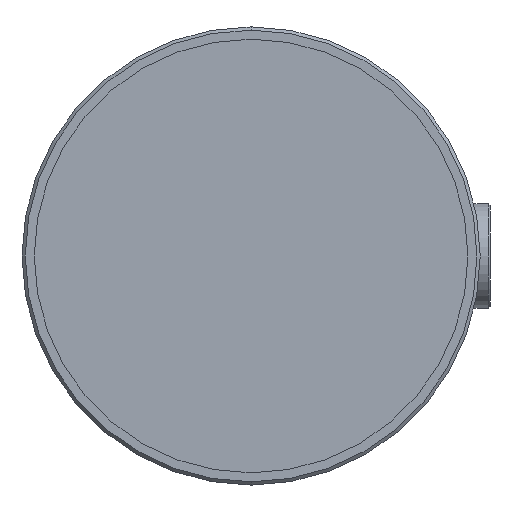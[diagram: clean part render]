
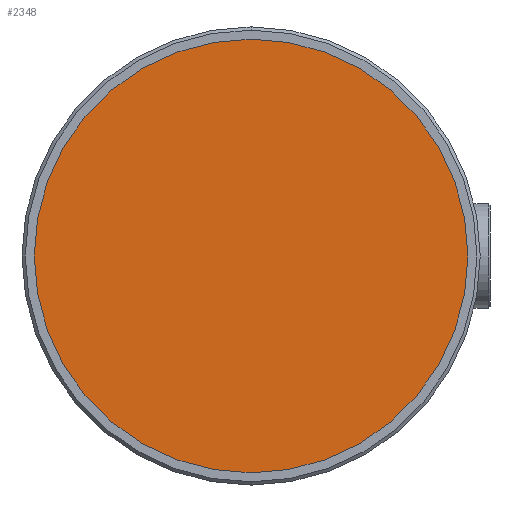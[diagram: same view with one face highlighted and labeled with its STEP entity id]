
A CAD part, left-side view. The second image highlights one B-rep face of the part: STEP entity #2348.
In plain terms, the highlighted planar face has unit normal (-1, 0, 0).
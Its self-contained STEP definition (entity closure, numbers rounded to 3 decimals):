
#5 = DIRECTION ( 'NONE',  ( 0., 0., -1. ) ) ;
#163 = AXIS2_PLACEMENT_3D ( 'NONE', #2325, #1165, #5 ) ;
#325 = PLANE ( 'NONE',  #619 ) ;
#619 = AXIS2_PLACEMENT_3D ( 'NONE', #1678, #2072, #910 ) ;
#642 = EDGE_LOOP ( 'NONE', ( #2172, #1814 ) ) ;
#783 = CIRCLE ( 'NONE', #2317, 33.125 ) ;
#843 = DIRECTION ( 'NONE',  ( 1., 0., 0. ) ) ;
#910 = DIRECTION ( 'NONE',  ( 0., 0., 1. ) ) ;
#1079 = VERTEX_POINT ( 'NONE', #1098 ) ;
#1098 = CARTESIAN_POINT ( 'NONE',  ( -111.526, 0., -33.125 ) ) ;
#1165 = DIRECTION ( 'NONE',  ( 1., 0., 0. ) ) ;
#1367 = FACE_OUTER_BOUND ( 'NONE', #642, .T. ) ;
#1641 = EDGE_CURVE ( 'NONE', #1964, #1079, #2319, .T. ) ;
#1678 = CARTESIAN_POINT ( 'NONE',  ( -111.526, 33.125, 0. ) ) ;
#1713 = EDGE_CURVE ( 'NONE', #1079, #1964, #783, .T. ) ;
#1814 = ORIENTED_EDGE ( 'NONE', *, *, #1641, .F. ) ;
#1964 = VERTEX_POINT ( 'NONE', #2349 ) ;
#2005 = CARTESIAN_POINT ( 'NONE',  ( -111.526, 0., 0. ) ) ;
#2072 = DIRECTION ( 'NONE',  ( -1., 0., 0. ) ) ;
#2172 = ORIENTED_EDGE ( 'NONE', *, *, #1713, .F. ) ;
#2201 = DIRECTION ( 'NONE',  ( 0., 0., -1. ) ) ;
#2317 = AXIS2_PLACEMENT_3D ( 'NONE', #2005, #843, #2201 ) ;
#2319 = CIRCLE ( 'NONE', #163, 33.125 ) ;
#2325 = CARTESIAN_POINT ( 'NONE',  ( -111.526, 0., 0. ) ) ;
#2348 = ADVANCED_FACE ( 'NONE', ( #1367 ), #325, .T. ) ;
#2349 = CARTESIAN_POINT ( 'NONE',  ( -111.526, 0., 33.125 ) ) ;
